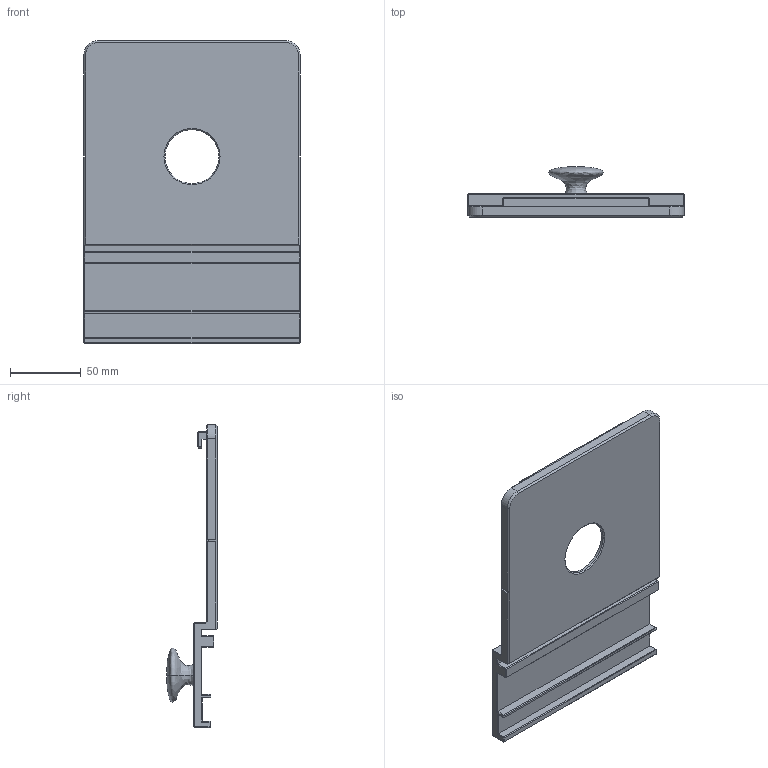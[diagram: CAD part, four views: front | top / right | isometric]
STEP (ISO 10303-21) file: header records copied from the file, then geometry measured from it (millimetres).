
FILE_DESCRIPTION (( 'STEP AP214' ), '1' );
FILE_NAME ('Track Saw Router Guide V2.STEP', '2026-02-25T21:47:44', ( '' ), ( '' ), 'SwSTEP 2.0', 'SolidWorks 2026', '' );
FILE_SCHEMA (( 'AUTOMOTIVE_DESIGN' ));
Length unit declared in the file: inch
Products named in the file (1): Track Saw Router Guide V2
Bounding box: 152.4 x 35.87 x 213.66 mm (x, y, z)
Volume: 205219.9 mm3; surface area: 84358.5 mm2
Topology: 1 solids, 1 shells, 148 faces, 390 edges, 241 vertices
Faces by surface type: plane 117, cylinder 14, cone 10, bspline 7
Entity records: 6741 total; most frequent: CARTESIAN_POINT 3143, ORIENTED_EDGE 776, DIRECTION 675, EDGE_CURVE 388, VECTOR 315, LINE 315, VERTEX_POINT 241, AXIS2_PLACEMENT_3D 180
